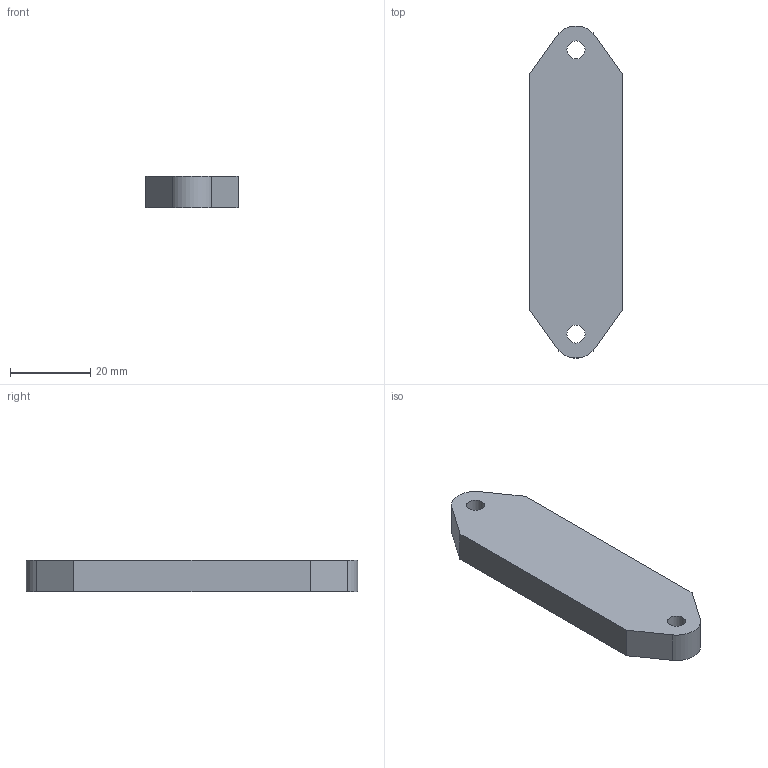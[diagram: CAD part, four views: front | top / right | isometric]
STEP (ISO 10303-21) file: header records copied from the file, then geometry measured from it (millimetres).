
FILE_DESCRIPTION(/* description */ (''),/* implementation_level */ '2;1');
FILE_NAME(/* name */ 'DSD-0541.stp',/* time_stamp */ '2013-05-10T11:47:23+02:00',/* author */ (''),/* organization */ (''),/* preprocessor_version */ 'ST-DEVELOPER v11',/* originating_system */ 'SIEMENS PLM Software NX 7.5',/* authorisation */ '');
FILE_SCHEMA (('CONFIG_CONTROL_DESIGN'));
Length unit declared in the file: millimetre
Products named in the file (1): MP002556_01
Bounding box: 23 x 82.95 x 7.8 mm (x, y, z)
Volume: 12740.8 mm3; surface area: 7943 mm2
Topology: 2 solids, 2 shells, 27 faces, 60 edges, 40 vertices
Faces by surface type: plane 21, cylinder 6
Full cylindrical faces by diameter (mm): 4.5 x2, 8 x2
Entity records: 818 total; most frequent: DIRECTION 124, CARTESIAN_POINT 124, ORIENTED_EDGE 112, EDGE_CURVE 56, LINE 44, VECTOR 44, VERTEX_POINT 40, AXIS2_PLACEMENT_3D 40
